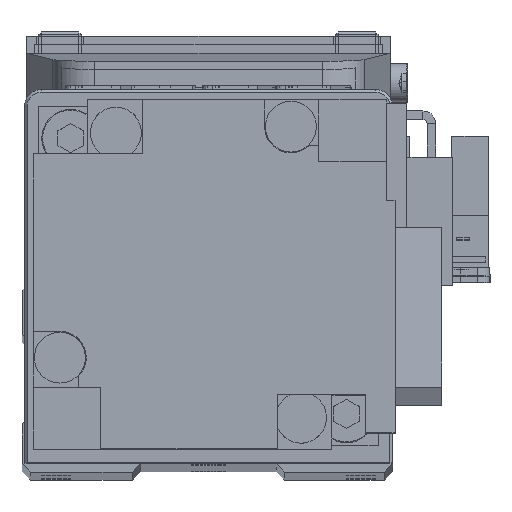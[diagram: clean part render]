
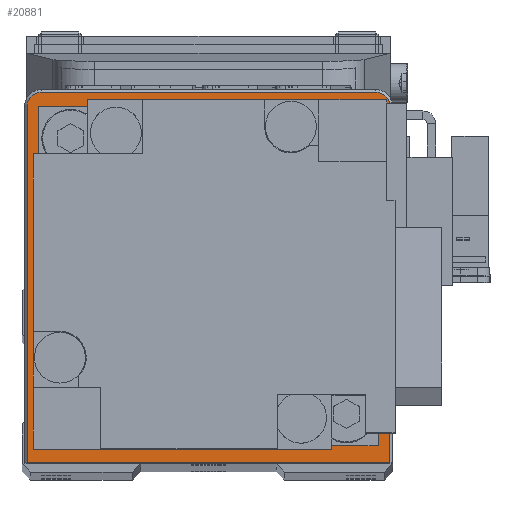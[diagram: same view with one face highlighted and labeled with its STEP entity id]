
A CAD part, top view. The second image highlights one B-rep face of the part: STEP entity #20881.
In plain terms, the highlighted planar face has unit normal (0, 0, 1).
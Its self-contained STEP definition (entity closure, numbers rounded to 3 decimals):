
#336 = AXIS2_PLACEMENT_3D ( 'NONE', #25426, #37108, #10928 ) ;
#463 = VERTEX_POINT ( 'NONE', #25612 ) ;
#553 = CARTESIAN_POINT ( 'NONE',  ( -10., 0., 26.5 ) ) ;
#725 = EDGE_CURVE ( 'NONE', #20565, #26204, #1144, .T. ) ;
#1144 = LINE ( 'NONE', #12798, #25918 ) ;
#1263 = VECTOR ( 'NONE', #18840, 1000. ) ;
#1461 = DIRECTION ( 'NONE',  ( 0., 1., 0. ) ) ;
#1725 = VECTOR ( 'NONE', #1461, 1000. ) ;
#1784 = DIRECTION ( 'NONE',  ( 0., 0., 1. ) ) ;
#2373 = VERTEX_POINT ( 'NONE', #553 ) ;
#2531 = VERTEX_POINT ( 'NONE', #24569 ) ;
#2713 = EDGE_CURVE ( 'NONE', #2373, #463, #24589, .T. ) ;
#3699 = DIRECTION ( 'NONE',  ( 1., 0., 0. ) ) ;
#3759 = EDGE_CURVE ( 'NONE', #8056, #14823, #33396, .T. ) ;
#4077 = CARTESIAN_POINT ( 'NONE',  ( -21.4, -22., 26.5 ) ) ;
#4649 = FACE_BOUND ( 'NONE', #24741, .T. ) ;
#7211 = CARTESIAN_POINT ( 'NONE',  ( -19.7, 21.7, 26.5 ) ) ;
#8056 = VERTEX_POINT ( 'NONE', #31130 ) ;
#8185 = EDGE_CURVE ( 'NONE', #14823, #8884, #9858, .T. ) ;
#8539 = DIRECTION ( 'NONE',  ( 1., 0., 0. ) ) ;
#8884 = VERTEX_POINT ( 'NONE', #34926 ) ;
#9858 = CIRCLE ( 'NONE', #31203, 1.7 ) ;
#10493 = DIRECTION ( 'NONE',  ( 1., 0., 0. ) ) ;
#10928 = DIRECTION ( 'NONE',  ( 1., 0., 0. ) ) ;
#11337 = ORIENTED_EDGE ( 'NONE', *, *, #3759, .T. ) ;
#11666 = EDGE_CURVE ( 'NONE', #2531, #8056, #14372, .T. ) ;
#12072 = EDGE_CURVE ( 'NONE', #26204, #2531, #15978, .T. ) ;
#12714 = VECTOR ( 'NONE', #15726, 1000. ) ;
#12798 = CARTESIAN_POINT ( 'NONE',  ( -21.7, -22., 26.5 ) ) ;
#13449 = DIRECTION ( 'NONE',  ( 1., 0., 0. ) ) ;
#13520 = EDGE_CURVE ( 'NONE', #8884, #20565, #30242, .T. ) ;
#14372 = CIRCLE ( 'NONE', #35722, 1.7 ) ;
#14823 = VERTEX_POINT ( 'NONE', #30429 ) ;
#15726 = DIRECTION ( 'NONE',  ( 0., -1., 0. ) ) ;
#15978 = LINE ( 'NONE', #27618, #1725 ) ;
#16302 = PLANE ( 'NONE',  #26793 ) ;
#16777 = CIRCLE ( 'NONE', #336, 10. ) ;
#18206 = CARTESIAN_POINT ( 'NONE',  ( -19.7, 20., 26.5 ) ) ;
#18840 = DIRECTION ( 'NONE',  ( -1., 0., 0. ) ) ;
#20565 = VERTEX_POINT ( 'NONE', #28930 ) ;
#20881 = ADVANCED_FACE ( 'NONE', ( #30819, #4649 ), #16302, .T. ) ;
#22147 = ORIENTED_EDGE ( 'NONE', *, *, #2713, .F. ) ;
#23035 = CARTESIAN_POINT ( 'NONE',  ( 0., 0., 26.5 ) ) ;
#23494 = ORIENTED_EDGE ( 'NONE', *, *, #13520, .T. ) ;
#24420 = DIRECTION ( 'NONE',  ( 1., 0., 0. ) ) ;
#24569 = CARTESIAN_POINT ( 'NONE',  ( 21.4, 20., 26.5 ) ) ;
#24589 = CIRCLE ( 'NONE', #29490, 10. ) ;
#24668 = EDGE_CURVE ( 'NONE', #463, #2373, #16777, .T. ) ;
#24741 = EDGE_LOOP ( 'NONE', ( #22147, #32942 ) ) ;
#24980 = CARTESIAN_POINT ( 'NONE',  ( 19.7, 20., 26.5 ) ) ;
#25426 = CARTESIAN_POINT ( 'NONE',  ( 0., 0., 26.5 ) ) ;
#25612 = CARTESIAN_POINT ( 'NONE',  ( 10., 0., 26.5 ) ) ;
#25918 = VECTOR ( 'NONE', #24420, 1000. ) ;
#26204 = VERTEX_POINT ( 'NONE', #27304 ) ;
#26793 = AXIS2_PLACEMENT_3D ( 'NONE', #27949, #1784, #13449 ) ;
#27304 = CARTESIAN_POINT ( 'NONE',  ( 21.4, -22., 26.5 ) ) ;
#27618 = CARTESIAN_POINT ( 'NONE',  ( 21.4, 20., 26.5 ) ) ;
#27949 = CARTESIAN_POINT ( 'NONE',  ( 0., 0., 26.5 ) ) ;
#28930 = CARTESIAN_POINT ( 'NONE',  ( -21.4, -22., 26.5 ) ) ;
#29490 = AXIS2_PLACEMENT_3D ( 'NONE', #23035, #34718, #8539 ) ;
#29864 = DIRECTION ( 'NONE',  ( 0., 0., 1. ) ) ;
#29884 = ORIENTED_EDGE ( 'NONE', *, *, #725, .T. ) ;
#30242 = LINE ( 'NONE', #4077, #12714 ) ;
#30429 = CARTESIAN_POINT ( 'NONE',  ( -19.7, 21.7, 26.5 ) ) ;
#30819 = FACE_OUTER_BOUND ( 'NONE', #33055, .T. ) ;
#31130 = CARTESIAN_POINT ( 'NONE',  ( 19.7, 21.7, 26.5 ) ) ;
#31203 = AXIS2_PLACEMENT_3D ( 'NONE', #18206, #29864, #3699 ) ;
#31895 = ORIENTED_EDGE ( 'NONE', *, *, #12072, .T. ) ;
#32942 = ORIENTED_EDGE ( 'NONE', *, *, #24668, .F. ) ;
#33055 = EDGE_LOOP ( 'NONE', ( #29884, #31895, #33621, #11337, #37041, #23494 ) ) ;
#33396 = LINE ( 'NONE', #7211, #1263 ) ;
#33621 = ORIENTED_EDGE ( 'NONE', *, *, #11666, .T. ) ;
#34718 = DIRECTION ( 'NONE',  ( 0., 0., 1. ) ) ;
#34926 = CARTESIAN_POINT ( 'NONE',  ( -21.4, 20., 26.5 ) ) ;
#35722 = AXIS2_PLACEMENT_3D ( 'NONE', #24980, #36673, #10493 ) ;
#36673 = DIRECTION ( 'NONE',  ( 0., 0., 1. ) ) ;
#37041 = ORIENTED_EDGE ( 'NONE', *, *, #8185, .T. ) ;
#37108 = DIRECTION ( 'NONE',  ( 0., 0., 1. ) ) ;
